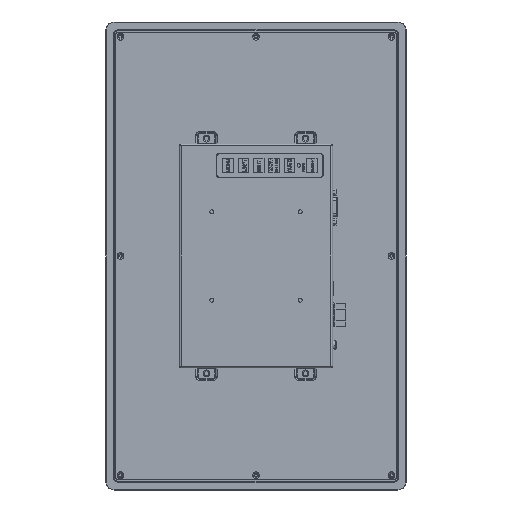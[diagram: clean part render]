
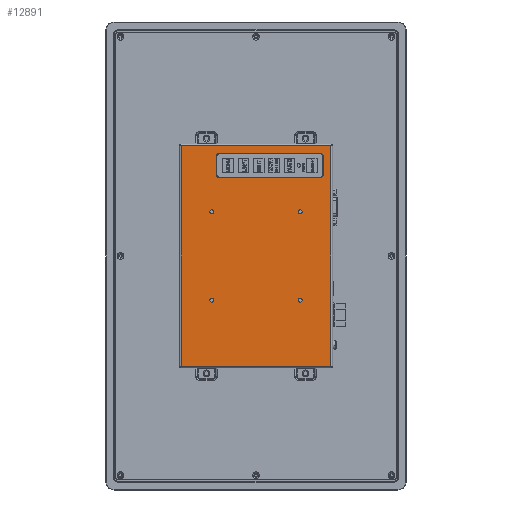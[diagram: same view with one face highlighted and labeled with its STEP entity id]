
A CAD part, left-side view. The second image highlights one B-rep face of the part: STEP entity #12891.
In plain terms, the highlighted planar face has unit normal (1, 0, 0).
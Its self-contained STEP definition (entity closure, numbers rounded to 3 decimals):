
#3286=DIRECTION('',(0.,0.,1.));
#3287=VECTOR('',#3286,187.2);
#3288=CARTESIAN_POINT('',(-18.9,-63.6,-93.6));
#3289=LINE('',#3288,#3287);
#3306=DIRECTION('',(0.,-1.,0.));
#3307=VECTOR('',#3306,127.2);
#3308=CARTESIAN_POINT('',(-18.9,63.6,-93.6));
#3309=LINE('',#3308,#3307);
#3330=CARTESIAN_POINT('',(-18.9,37.5,37.5));
#3331=DIRECTION('',(-1.,0.,0.));
#3332=DIRECTION('',(0.,0.,-1.));
#3333=AXIS2_PLACEMENT_3D('',#3330,#3331,#3332);
#3335=CARTESIAN_POINT('',(-18.9,37.5,37.5));
#3336=DIRECTION('',(-1.,0.,0.));
#3337=DIRECTION('',(0.,0.,1.));
#3338=AXIS2_PLACEMENT_3D('',#3335,#3336,#3337);
#3340=CARTESIAN_POINT('',(-18.9,37.5,-37.5));
#3341=DIRECTION('',(-1.,0.,0.));
#3342=DIRECTION('',(0.,0.,-1.));
#3343=AXIS2_PLACEMENT_3D('',#3340,#3341,#3342);
#3345=CARTESIAN_POINT('',(-18.9,37.5,-37.5));
#3346=DIRECTION('',(-1.,0.,0.));
#3347=DIRECTION('',(0.,0.,1.));
#3348=AXIS2_PLACEMENT_3D('',#3345,#3346,#3347);
#3350=CARTESIAN_POINT('',(-18.9,-37.5,-37.5));
#3351=DIRECTION('',(-1.,0.,0.));
#3352=DIRECTION('',(0.,0.,-1.));
#3353=AXIS2_PLACEMENT_3D('',#3350,#3351,#3352);
#3355=CARTESIAN_POINT('',(-18.9,-37.5,-37.5));
#3356=DIRECTION('',(-1.,0.,0.));
#3357=DIRECTION('',(0.,0.,1.));
#3358=AXIS2_PLACEMENT_3D('',#3355,#3356,#3357);
#3360=CARTESIAN_POINT('',(-18.9,-37.5,37.5));
#3361=DIRECTION('',(-1.,0.,0.));
#3362=DIRECTION('',(0.,0.,-1.));
#3363=AXIS2_PLACEMENT_3D('',#3360,#3361,#3362);
#3365=CARTESIAN_POINT('',(-18.9,-37.5,37.5));
#3366=DIRECTION('',(-1.,0.,0.));
#3367=DIRECTION('',(0.,0.,1.));
#3368=AXIS2_PLACEMENT_3D('',#3365,#3366,#3367);
#3370=CARTESIAN_POINT('',(-18.9,31.17,84.77));
#3371=DIRECTION('',(-1.,0.,0.));
#3372=DIRECTION('',(0.,0.,1.));
#3373=AXIS2_PLACEMENT_3D('',#3370,#3371,#3372);
#3375=CARTESIAN_POINT('',(-18.9,-54.77,84.77));
#3376=DIRECTION('',(-1.,0.,0.));
#3377=DIRECTION('',(0.,-1.,0.));
#3378=AXIS2_PLACEMENT_3D('',#3375,#3376,#3377);
#3380=CARTESIAN_POINT('',(-18.9,-54.77,68.83));
#3381=DIRECTION('',(-1.,0.,0.));
#3382=DIRECTION('',(0.,0.,-1.));
#3383=AXIS2_PLACEMENT_3D('',#3380,#3381,#3382);
#3385=CARTESIAN_POINT('',(-18.9,31.17,68.83));
#3386=DIRECTION('',(-1.,0.,0.));
#3387=DIRECTION('',(0.,1.,0.));
#3388=AXIS2_PLACEMENT_3D('',#3385,#3386,#3387);
#3402=DIRECTION('',(0.,1.,0.));
#3403=VECTOR('',#3402,127.2);
#3404=CARTESIAN_POINT('',(-18.9,-63.6,93.6));
#3405=LINE('',#3404,#3403);
#4489=DIRECTION('',(0.,0.,-1.));
#4490=VECTOR('',#4489,187.2);
#4491=CARTESIAN_POINT('',(-18.9,63.6,93.6));
#4492=LINE('',#4491,#4490);
#5359=DIRECTION('',(0.,0.,1.));
#5360=VECTOR('',#5359,15.94);
#5361=CARTESIAN_POINT('',(-18.9,33.4,68.83));
#5362=LINE('',#5361,#5360);
#5375=DIRECTION('',(0.,-1.,0.));
#5376=VECTOR('',#5375,85.94);
#5377=CARTESIAN_POINT('',(-18.9,31.17,66.6));
#5378=LINE('',#5377,#5376);
#5391=DIRECTION('',(0.,0.,1.));
#5392=VECTOR('',#5391,15.94);
#5393=CARTESIAN_POINT('',(-18.9,-57.,68.83));
#5394=LINE('',#5393,#5392);
#5407=DIRECTION('',(0.,-1.,0.));
#5408=VECTOR('',#5407,85.94);
#5409=CARTESIAN_POINT('',(-18.9,31.17,87.));
#5410=LINE('',#5409,#5408);
#9714=CARTESIAN_POINT('',(-18.9,63.6,-93.6));
#9716=VERTEX_POINT('',#9714);
#9722=CARTESIAN_POINT('',(-18.9,-63.6,-93.6));
#9723=VERTEX_POINT('',#9722);
#9725=CARTESIAN_POINT('',(-18.9,-63.6,93.6));
#9726=VERTEX_POINT('',#9725);
#9727=CARTESIAN_POINT('',(-18.9,63.6,93.6));
#9728=VERTEX_POINT('',#9727);
#9729=CARTESIAN_POINT('',(-18.9,37.5,35.85));
#9730=CARTESIAN_POINT('',(-18.9,37.5,39.15));
#9731=VERTEX_POINT('',#9729);
#9732=VERTEX_POINT('',#9730);
#9733=CARTESIAN_POINT('',(-18.9,37.5,-39.15));
#9734=CARTESIAN_POINT('',(-18.9,37.5,-35.85));
#9735=VERTEX_POINT('',#9733);
#9736=VERTEX_POINT('',#9734);
#9737=CARTESIAN_POINT('',(-18.9,-37.5,-39.15));
#9738=CARTESIAN_POINT('',(-18.9,-37.5,-35.85));
#9739=VERTEX_POINT('',#9737);
#9740=VERTEX_POINT('',#9738);
#9741=CARTESIAN_POINT('',(-18.9,-37.5,35.85));
#9742=CARTESIAN_POINT('',(-18.9,-37.5,39.15));
#9743=VERTEX_POINT('',#9741);
#9744=VERTEX_POINT('',#9742);
#9745=CARTESIAN_POINT('',(-18.9,33.4,68.83));
#9746=CARTESIAN_POINT('',(-18.9,33.4,84.77));
#9747=VERTEX_POINT('',#9745);
#9748=VERTEX_POINT('',#9746);
#9749=CARTESIAN_POINT('',(-18.9,31.17,87.));
#9750=VERTEX_POINT('',#9749);
#9751=CARTESIAN_POINT('',(-18.9,-54.77,87.));
#9752=VERTEX_POINT('',#9751);
#9753=CARTESIAN_POINT('',(-18.9,-57.,84.77));
#9754=VERTEX_POINT('',#9753);
#9755=CARTESIAN_POINT('',(-18.9,-57.,68.83));
#9756=VERTEX_POINT('',#9755);
#9757=CARTESIAN_POINT('',(-18.9,-54.77,66.6));
#9758=VERTEX_POINT('',#9757);
#9759=CARTESIAN_POINT('',(-18.9,31.17,66.6));
#9760=VERTEX_POINT('',#9759);
#12836=CARTESIAN_POINT('',(-18.9,0.,0.));
#12837=DIRECTION('',(1.,0.,0.));
#12838=DIRECTION('',(0.,0.,-1.));
#12839=AXIS2_PLACEMENT_3D('',#12836,#12837,#12838);
#12840=PLANE('',#12839);
#12841=ORIENTED_EDGE('',*,*,#12826,.T.);
#12842=ORIENTED_EDGE('',*,*,#12704,.T.);
#12844=ORIENTED_EDGE('',*,*,#12843,.T.);
#12846=ORIENTED_EDGE('',*,*,#12845,.T.);
#12847=EDGE_LOOP('',(#12841,#12842,#12844,#12846));
#12848=FACE_OUTER_BOUND('',#12847,.F.);
#12850=ORIENTED_EDGE('',*,*,#12849,.F.);
#12852=ORIENTED_EDGE('',*,*,#12851,.F.);
#12853=EDGE_LOOP('',(#12850,#12852));
#12854=FACE_BOUND('',#12853,.F.);
#12856=ORIENTED_EDGE('',*,*,#12855,.F.);
#12858=ORIENTED_EDGE('',*,*,#12857,.F.);
#12859=EDGE_LOOP('',(#12856,#12858));
#12860=FACE_BOUND('',#12859,.F.);
#12862=ORIENTED_EDGE('',*,*,#12861,.F.);
#12864=ORIENTED_EDGE('',*,*,#12863,.F.);
#12865=EDGE_LOOP('',(#12862,#12864));
#12866=FACE_BOUND('',#12865,.F.);
#12868=ORIENTED_EDGE('',*,*,#12867,.F.);
#12870=ORIENTED_EDGE('',*,*,#12869,.F.);
#12871=EDGE_LOOP('',(#12868,#12870));
#12872=FACE_BOUND('',#12871,.F.);
#12874=ORIENTED_EDGE('',*,*,#12873,.T.);
#12876=ORIENTED_EDGE('',*,*,#12875,.F.);
#12878=ORIENTED_EDGE('',*,*,#12877,.T.);
#12880=ORIENTED_EDGE('',*,*,#12879,.F.);
#12882=ORIENTED_EDGE('',*,*,#12881,.F.);
#12884=ORIENTED_EDGE('',*,*,#12883,.F.);
#12886=ORIENTED_EDGE('',*,*,#12885,.F.);
#12888=ORIENTED_EDGE('',*,*,#12887,.F.);
#12889=EDGE_LOOP('',(#12874,#12876,#12878,#12880,#12882,#12884,#12886,#12888));
#12890=FACE_BOUND('',#12889,.F.);
#12891=ADVANCED_FACE('',(#12848,#12854,#12860,#12866,#12872,#12890),#12840,.T.);
#3334=CIRCLE('',#3333,1.65);
#3339=CIRCLE('',#3338,1.65);
#3344=CIRCLE('',#3343,1.65);
#3349=CIRCLE('',#3348,1.65);
#3354=CIRCLE('',#3353,1.65);
#3359=CIRCLE('',#3358,1.65);
#3364=CIRCLE('',#3363,1.65);
#3369=CIRCLE('',#3368,1.65);
#3374=CIRCLE('',#3373,2.23);
#3379=CIRCLE('',#3378,2.23);
#3384=CIRCLE('',#3383,2.23);
#3389=CIRCLE('',#3388,2.23);
#12704=EDGE_CURVE('',#9723,#9726,#3289,.T.);
#12826=EDGE_CURVE('',#9716,#9723,#3309,.T.);
#12843=EDGE_CURVE('',#9726,#9728,#3405,.T.);
#12845=EDGE_CURVE('',#9728,#9716,#4492,.T.);
#12849=EDGE_CURVE('',#9731,#9732,#3334,.T.);
#12851=EDGE_CURVE('',#9732,#9731,#3339,.T.);
#12855=EDGE_CURVE('',#9735,#9736,#3344,.T.);
#12857=EDGE_CURVE('',#9736,#9735,#3349,.T.);
#12861=EDGE_CURVE('',#9739,#9740,#3354,.T.);
#12863=EDGE_CURVE('',#9740,#9739,#3359,.T.);
#12867=EDGE_CURVE('',#9743,#9744,#3364,.T.);
#12869=EDGE_CURVE('',#9744,#9743,#3369,.T.);
#12873=EDGE_CURVE('',#9747,#9748,#5362,.T.);
#12875=EDGE_CURVE('',#9750,#9748,#3374,.T.);
#12877=EDGE_CURVE('',#9750,#9752,#5410,.T.);
#12879=EDGE_CURVE('',#9754,#9752,#3379,.T.);
#12881=EDGE_CURVE('',#9756,#9754,#5394,.T.);
#12883=EDGE_CURVE('',#9758,#9756,#3384,.T.);
#12885=EDGE_CURVE('',#9760,#9758,#5378,.T.);
#12887=EDGE_CURVE('',#9747,#9760,#3389,.T.);
